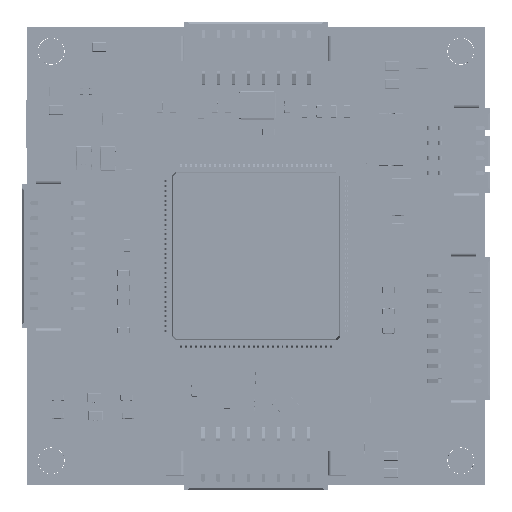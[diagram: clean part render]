
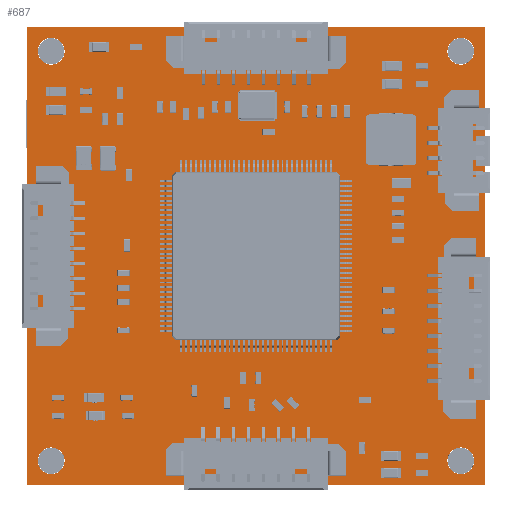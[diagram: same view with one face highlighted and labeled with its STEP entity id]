
A CAD part, top view. The second image highlights one B-rep face of the part: STEP entity #687.
In plain terms, the highlighted planar face has unit normal (0, 0, 1).
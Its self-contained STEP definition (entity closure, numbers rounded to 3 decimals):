
#414 = VERTEX_POINT('',#415);
#415 = CARTESIAN_POINT('',(0.013,37.987,
    1.6));
#421 = EDGE_CURVE('',#414,#422,#424,.T.);
#422 = VERTEX_POINT('',#423);
#423 = CARTESIAN_POINT('',(37.987,37.987,
    1.6));
#424 = LINE('',#425,#426);
#425 = CARTESIAN_POINT('',(0.013,37.987,
    1.6));
#426 = VECTOR('',#427,1.);
#427 = DIRECTION('',(1.,0.,0.));
#454 = VERTEX_POINT('',#455);
#455 = CARTESIAN_POINT('',(0.013,0.013,
    1.6));
#461 = EDGE_CURVE('',#454,#414,#462,.T.);
#462 = LINE('',#463,#464);
#463 = CARTESIAN_POINT('',(0.013,0.013,
    1.6));
#464 = VECTOR('',#465,1.);
#465 = DIRECTION('',(0.,1.,0.));
#483 = EDGE_CURVE('',#422,#484,#486,.T.);
#484 = VERTEX_POINT('',#485);
#485 = CARTESIAN_POINT('',(37.987,0.013,
    1.6));
#486 = LINE('',#487,#488);
#487 = CARTESIAN_POINT('',(37.987,37.987,
    1.6));
#488 = VECTOR('',#489,1.);
#489 = DIRECTION('',(0.,-1.,0.));
#687 = ADVANCED_FACE('',(#688,#699,#719,#739,#809,#829,#840),#860,.F.);
#688 = FACE_BOUND('',#689,.F.);
#689 = EDGE_LOOP('',(#690,#691,#692,#698));
#690 = ORIENTED_EDGE('',*,*,#421,.T.);
#691 = ORIENTED_EDGE('',*,*,#483,.T.);
#692 = ORIENTED_EDGE('',*,*,#693,.T.);
#693 = EDGE_CURVE('',#484,#454,#694,.T.);
#694 = LINE('',#695,#696);
#695 = CARTESIAN_POINT('',(37.987,0.013,
    1.6));
#696 = VECTOR('',#697,1.);
#697 = DIRECTION('',(-1.,0.,0.));
#698 = ORIENTED_EDGE('',*,*,#461,.T.);
#699 = FACE_BOUND('',#700,.F.);
#700 = EDGE_LOOP('',(#701,#712));
#701 = ORIENTED_EDGE('',*,*,#702,.T.);
#702 = EDGE_CURVE('',#703,#705,#707,.T.);
#703 = VERTEX_POINT('',#704);
#704 = CARTESIAN_POINT('',(37.113,2.,1.6)
  );
#705 = VERTEX_POINT('',#706);
#706 = CARTESIAN_POINT('',(34.887,2.,1.6)
  );
#707 = CIRCLE('',#708,1.113);
#708 = AXIS2_PLACEMENT_3D('',#709,#710,#711);
#709 = CARTESIAN_POINT('',(36.,2.,1.6)
  );
#710 = DIRECTION('',(0.,0.,1.));
#711 = DIRECTION('',(1.,0.,-0.));
#712 = ORIENTED_EDGE('',*,*,#713,.T.);
#713 = EDGE_CURVE('',#705,#703,#714,.T.);
#714 = CIRCLE('',#715,1.113);
#715 = AXIS2_PLACEMENT_3D('',#716,#717,#718);
#716 = CARTESIAN_POINT('',(36.,2.,1.6)
  );
#717 = DIRECTION('',(0.,0.,1.));
#718 = DIRECTION('',(-1.,0.,0.));
#719 = FACE_BOUND('',#720,.F.);
#720 = EDGE_LOOP('',(#721,#732));
#721 = ORIENTED_EDGE('',*,*,#722,.T.);
#722 = EDGE_CURVE('',#723,#725,#727,.T.);
#723 = VERTEX_POINT('',#724);
#724 = CARTESIAN_POINT('',(3.113,2.,1.6)
  );
#725 = VERTEX_POINT('',#726);
#726 = CARTESIAN_POINT('',(0.887,2.,1.6)
  );
#727 = CIRCLE('',#728,1.113);
#728 = AXIS2_PLACEMENT_3D('',#729,#730,#731);
#729 = CARTESIAN_POINT('',(2.,2.,1.6));
#730 = DIRECTION('',(0.,0.,1.));
#731 = DIRECTION('',(1.,0.,-0.));
#732 = ORIENTED_EDGE('',*,*,#733,.T.);
#733 = EDGE_CURVE('',#725,#723,#734,.T.);
#734 = CIRCLE('',#735,1.113);
#735 = AXIS2_PLACEMENT_3D('',#736,#737,#738);
#736 = CARTESIAN_POINT('',(2.,2.,1.6));
#737 = DIRECTION('',(0.,0.,1.));
#738 = DIRECTION('',(-1.,0.,0.));
#739 = FACE_BOUND('',#740,.F.);
#740 = EDGE_LOOP('',(#741,#751,#760,#768,#777,#785,#794,#802));
#741 = ORIENTED_EDGE('',*,*,#742,.T.);
#742 = EDGE_CURVE('',#743,#745,#747,.T.);
#743 = VERTEX_POINT('',#744);
#744 = CARTESIAN_POINT('',(28.584,28.116,
    1.6));
#745 = VERTEX_POINT('',#746);
#746 = CARTESIAN_POINT('',(31.927,28.116,
    1.6));
#747 = LINE('',#748,#749);
#748 = CARTESIAN_POINT('',(28.584,28.116,
    1.6));
#749 = VECTOR('',#750,1.);
#750 = DIRECTION('',(1.,0.,0.));
#751 = ORIENTED_EDGE('',*,*,#752,.T.);
#752 = EDGE_CURVE('',#745,#753,#755,.T.);
#753 = VERTEX_POINT('',#754);
#754 = CARTESIAN_POINT('',(31.94,28.129,
    1.6));
#755 = CIRCLE('',#756,0.013);
#756 = AXIS2_PLACEMENT_3D('',#757,#758,#759);
#757 = CARTESIAN_POINT('',(31.927,28.129,
    1.6));
#758 = DIRECTION('',(0.,0.,1.));
#759 = DIRECTION('',(0.,-1.,0.));
#760 = ORIENTED_EDGE('',*,*,#761,.T.);
#761 = EDGE_CURVE('',#753,#762,#764,.T.);
#762 = VERTEX_POINT('',#763);
#763 = CARTESIAN_POINT('',(31.94,29.169,1.6
    ));
#764 = LINE('',#765,#766);
#765 = CARTESIAN_POINT('',(31.94,28.129,
    1.6));
#766 = VECTOR('',#767,1.);
#767 = DIRECTION('',(0.,1.,0.));
#768 = ORIENTED_EDGE('',*,*,#769,.T.);
#769 = EDGE_CURVE('',#762,#770,#772,.T.);
#770 = VERTEX_POINT('',#771);
#771 = CARTESIAN_POINT('',(31.927,29.181,1.6
    ));
#772 = CIRCLE('',#773,0.013);
#773 = AXIS2_PLACEMENT_3D('',#774,#775,#776);
#774 = CARTESIAN_POINT('',(31.927,29.169,1.6
    ));
#775 = DIRECTION('',(0.,0.,1.));
#776 = DIRECTION('',(1.,0.,-0.));
#777 = ORIENTED_EDGE('',*,*,#778,.T.);
#778 = EDGE_CURVE('',#770,#779,#781,.T.);
#779 = VERTEX_POINT('',#780);
#780 = CARTESIAN_POINT('',(28.584,29.181,1.6
    ));
#781 = LINE('',#782,#783);
#782 = CARTESIAN_POINT('',(31.927,29.181,1.6
    ));
#783 = VECTOR('',#784,1.);
#784 = DIRECTION('',(-1.,0.,0.));
#785 = ORIENTED_EDGE('',*,*,#786,.T.);
#786 = EDGE_CURVE('',#779,#787,#789,.T.);
#787 = VERTEX_POINT('',#788);
#788 = CARTESIAN_POINT('',(28.571,29.169,1.6
    ));
#789 = CIRCLE('',#790,0.013);
#790 = AXIS2_PLACEMENT_3D('',#791,#792,#793);
#791 = CARTESIAN_POINT('',(28.584,29.169,1.6
    ));
#792 = DIRECTION('',(0.,0.,1.));
#793 = DIRECTION('',(0.,1.,-0.));
#794 = ORIENTED_EDGE('',*,*,#795,.T.);
#795 = EDGE_CURVE('',#787,#796,#798,.T.);
#796 = VERTEX_POINT('',#797);
#797 = CARTESIAN_POINT('',(28.571,28.129,
    1.6));
#798 = LINE('',#799,#800);
#799 = CARTESIAN_POINT('',(28.571,29.169,1.6
    ));
#800 = VECTOR('',#801,1.);
#801 = DIRECTION('',(0.,-1.,0.));
#802 = ORIENTED_EDGE('',*,*,#803,.T.);
#803 = EDGE_CURVE('',#796,#743,#804,.T.);
#804 = CIRCLE('',#805,0.013);
#805 = AXIS2_PLACEMENT_3D('',#806,#807,#808);
#806 = CARTESIAN_POINT('',(28.584,28.129,
    1.6));
#807 = DIRECTION('',(0.,0.,1.));
#808 = DIRECTION('',(-1.,0.,0.));
#809 = FACE_BOUND('',#810,.F.);
#810 = EDGE_LOOP('',(#811,#822));
#811 = ORIENTED_EDGE('',*,*,#812,.T.);
#812 = EDGE_CURVE('',#813,#815,#817,.T.);
#813 = VERTEX_POINT('',#814);
#814 = CARTESIAN_POINT('',(37.113,36.,
    1.6));
#815 = VERTEX_POINT('',#816);
#816 = CARTESIAN_POINT('',(34.887,36.,
    1.6));
#817 = CIRCLE('',#818,1.113);
#818 = AXIS2_PLACEMENT_3D('',#819,#820,#821);
#819 = CARTESIAN_POINT('',(36.,36.,
    1.6));
#820 = DIRECTION('',(0.,0.,1.));
#821 = DIRECTION('',(1.,0.,-0.));
#822 = ORIENTED_EDGE('',*,*,#823,.T.);
#823 = EDGE_CURVE('',#815,#813,#824,.T.);
#824 = CIRCLE('',#825,1.113);
#825 = AXIS2_PLACEMENT_3D('',#826,#827,#828);
#826 = CARTESIAN_POINT('',(36.,36.,
    1.6));
#827 = DIRECTION('',(0.,0.,1.));
#828 = DIRECTION('',(-1.,0.,0.));
#829 = FACE_BOUND('',#830,.F.);
#830 = EDGE_LOOP('',(#831));
#831 = ORIENTED_EDGE('',*,*,#832,.T.);
#832 = EDGE_CURVE('',#833,#833,#835,.T.);
#833 = VERTEX_POINT('',#834);
#834 = CARTESIAN_POINT('',(19.001,19.,
    1.6));
#835 = CIRCLE('',#836,0.001);
#836 = AXIS2_PLACEMENT_3D('',#837,#838,#839);
#837 = CARTESIAN_POINT('',(19.,19.,
    1.6));
#838 = DIRECTION('',(0.,0.,1.));
#839 = DIRECTION('',(1.,0.,-0.));
#840 = FACE_BOUND('',#841,.F.);
#841 = EDGE_LOOP('',(#842,#853));
#842 = ORIENTED_EDGE('',*,*,#843,.T.);
#843 = EDGE_CURVE('',#844,#846,#848,.T.);
#844 = VERTEX_POINT('',#845);
#845 = CARTESIAN_POINT('',(3.113,36.,1.6
    ));
#846 = VERTEX_POINT('',#847);
#847 = CARTESIAN_POINT('',(0.887,36.,1.6
    ));
#848 = CIRCLE('',#849,1.113);
#849 = AXIS2_PLACEMENT_3D('',#850,#851,#852);
#850 = CARTESIAN_POINT('',(2.,36.,1.6)
  );
#851 = DIRECTION('',(0.,0.,1.));
#852 = DIRECTION('',(1.,0.,-0.));
#853 = ORIENTED_EDGE('',*,*,#854,.T.);
#854 = EDGE_CURVE('',#846,#844,#855,.T.);
#855 = CIRCLE('',#856,1.113);
#856 = AXIS2_PLACEMENT_3D('',#857,#858,#859);
#857 = CARTESIAN_POINT('',(2.,36.,1.6)
  );
#858 = DIRECTION('',(0.,0.,1.));
#859 = DIRECTION('',(-1.,0.,0.));
#860 = PLANE('',#861);
#861 = AXIS2_PLACEMENT_3D('',#862,#863,#864);
#862 = CARTESIAN_POINT('',(19.,19.,
    1.6));
#863 = DIRECTION('',(-0.,-0.,-1.));
#864 = DIRECTION('',(-1.,0.,0.));
